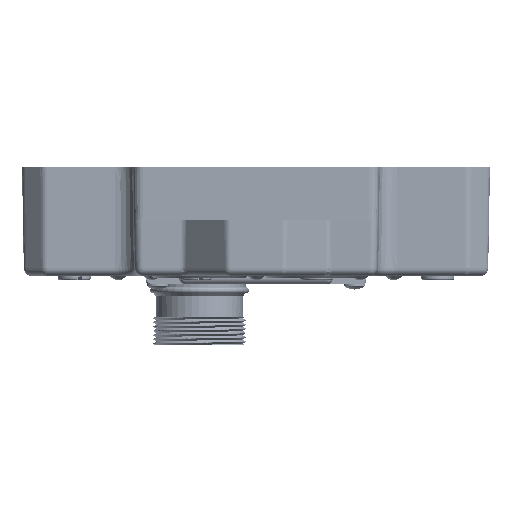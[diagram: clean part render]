
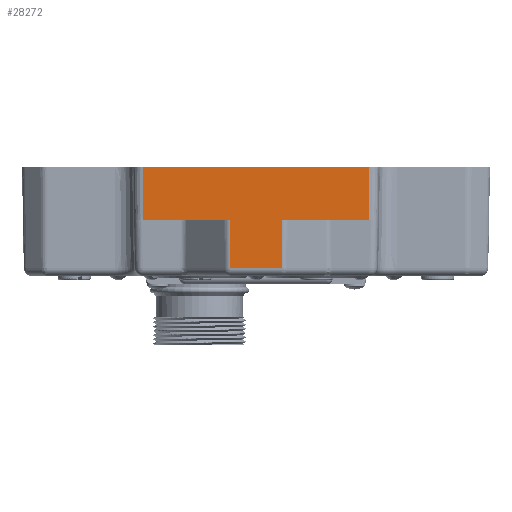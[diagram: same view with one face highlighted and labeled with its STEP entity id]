
A CAD part, left-side view. The second image highlights one B-rep face of the part: STEP entity #28272.
In plain terms, the highlighted planar face has unit normal (-1, 0, -0.018).
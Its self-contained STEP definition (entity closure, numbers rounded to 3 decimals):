
#25012=CARTESIAN_POINT('',(-110.471,28.,14.));
#25013=VERTEX_POINT('',#25012);
#25021=CARTESIAN_POINT('',(-110.471,-28.,14.));
#25022=VERTEX_POINT('',#25021);
#25023=CARTESIAN_POINT('',(-110.471,28.,14.));
#25024=DIRECTION('',(0.0,-1.0,0.0));
#25025=VECTOR('',#25024,56.);
#25026=LINE('',#25023,#25025);
#25027=EDGE_CURVE('',#25013,#25022,#25026,.T.);
#28210=CARTESIAN_POINT('',(-110.473,-28.1,14.1));
#28211=DIRECTION('',(-1.,0.0,-0.017));
#28212=DIRECTION('',(0.0,1.0,0.0));
#28213=AXIS2_PLACEMENT_3D('',#28210,#28211,#28212);
#28214=PLANE('',#28213);
#28215=CARTESIAN_POINT('',(-110.244,6.427,1.));
#28216=VERTEX_POINT('',#28215);
#28217=CARTESIAN_POINT('',(-110.034,6.34,-11.035));
#28218=VERTEX_POINT('',#28217);
#28219=CARTESIAN_POINT('',(-110.244,6.427,1.));
#28220=DIRECTION('',(0.017,-0.007,-1.));
#28221=VECTOR('',#28220,12.037);
#28222=LINE('',#28219,#28221);
#28223=EDGE_CURVE('',#28216,#28218,#28222,.T.);
#28224=ORIENTED_EDGE('',*,*,#28223,.T.);
#28225=CARTESIAN_POINT('',(-110.034,-6.34,-11.035));
#28226=VERTEX_POINT('',#28225);
#28227=CARTESIAN_POINT('',(-110.034,6.34,-11.035));
#28228=DIRECTION('',(0.0,-1.0,0.0));
#28229=VECTOR('',#28228,12.68);
#28230=LINE('',#28227,#28229);
#28231=EDGE_CURVE('',#28218,#28226,#28230,.T.);
#28232=ORIENTED_EDGE('',*,*,#28231,.T.);
#28233=CARTESIAN_POINT('',(-110.244,-6.427,1.));
#28234=VERTEX_POINT('',#28233);
#28235=CARTESIAN_POINT('',(-110.034,-6.34,-11.035));
#28236=DIRECTION('',(-0.017,-0.007,1.));
#28237=VECTOR('',#28236,12.037);
#28238=LINE('',#28235,#28237);
#28239=EDGE_CURVE('',#28226,#28234,#28238,.T.);
#28240=ORIENTED_EDGE('',*,*,#28239,.T.);
#28241=CARTESIAN_POINT('',(-110.244,-28.,1.));
#28242=VERTEX_POINT('',#28241);
#28243=CARTESIAN_POINT('',(-110.244,-6.427,1.));
#28244=DIRECTION('',(0.0,-1.0,0.0));
#28245=VECTOR('',#28244,21.573);
#28246=LINE('',#28243,#28245);
#28247=EDGE_CURVE('',#28234,#28242,#28246,.T.);
#28248=ORIENTED_EDGE('',*,*,#28247,.T.);
#28249=CARTESIAN_POINT('',(-110.471,-28.,14.));
#28250=DIRECTION('',(0.017,0.0,-1.));
#28251=VECTOR('',#28250,13.002);
#28252=LINE('',#28249,#28251);
#28253=EDGE_CURVE('',#25022,#28242,#28252,.T.);
#28254=ORIENTED_EDGE('',*,*,#28253,.F.);
#28255=ORIENTED_EDGE('',*,*,#25027,.F.);
#28256=CARTESIAN_POINT('',(-110.244,28.,1.));
#28257=VERTEX_POINT('',#28256);
#28258=CARTESIAN_POINT('',(-110.471,28.,14.));
#28259=DIRECTION('',(0.017,0.0,-1.));
#28260=VECTOR('',#28259,13.002);
#28261=LINE('',#28258,#28260);
#28262=EDGE_CURVE('',#25013,#28257,#28261,.T.);
#28263=ORIENTED_EDGE('',*,*,#28262,.T.);
#28264=CARTESIAN_POINT('',(-110.244,28.,1.));
#28265=DIRECTION('',(0.0,-1.0,0.0));
#28266=VECTOR('',#28265,21.573);
#28267=LINE('',#28264,#28266);
#28268=EDGE_CURVE('',#28257,#28216,#28267,.T.);
#28269=ORIENTED_EDGE('',*,*,#28268,.T.);
#28270=EDGE_LOOP('',(#28224,#28232,#28240,#28248,#28254,#28255,#28263,#28269));
#28271=FACE_OUTER_BOUND('',#28270,.T.);
#28272=ADVANCED_FACE('',(#28271),#28214,.T.);
